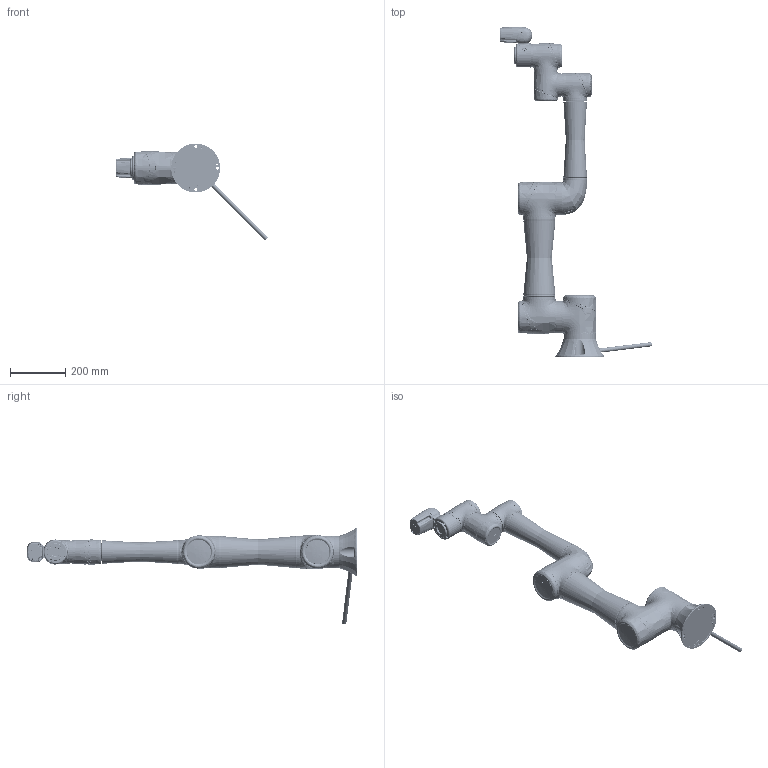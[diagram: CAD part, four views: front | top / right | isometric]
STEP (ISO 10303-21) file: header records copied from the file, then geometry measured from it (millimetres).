
FILE_DESCRIPTION((''),'2;1');
FILE_NAME('TM5-900_ASM','2017-01-06T',('Xavier.Kuo'),(''),'PRO/ENGINEER BY PARAMETRIC TECHNOLOGY CORPORATION, 2014320','PRO/ENGINEER BY PARAMETRIC TECHNOLOGY CORPORATION, 2014320','');
FILE_SCHEMA(('CONFIG_CONTROL_DESIGN'));
Products named in the file (11): TM5-BASE; 4H-J; ARM1-900; 04-JOINT-L; ARM2-900; 1H-J; IO_FX_SW0004; IO_CAMERA_F; 8A_05PFFS_SH7001_5; ASM0017_ASM; TM5-900_ASM
Assembly tree (14 placements, depth 3):
  TM5-900_ASM
    TM5-BASE
    4H-J  x3
    ARM1-900
    04-JOINT-L
    ARM2-900
    1H-J  x3
    ASM0017_ASM
      IO_FX_SW0004
      IO_CAMERA_F
      8A_05PFFS_SH7001_5
Bounding box: 550.75 x 1196.6 x 350.55 mm (x, y, z)
Volume: 3677617.6 mm3; surface area: 1816204.6 mm2
Topology: 19 solids, 61 shells, 10841 faces, 28970 edges, 18295 vertices
Faces by surface type: cylinder 3029, plane 2458, bspline 2411, cone 2053, torus 618, extrusion 167, sphere 87, revolution 18
Entity records: 279147 total; most frequent: CARTESIAN_POINT 137560, ORIENTED_EDGE 31044, DIRECTION 28184, EDGE_CURVE 15522, AXIS2_PLACEMENT_3D 11250, VERTEX_POINT 9994, CIRCLE 6569, EDGE_LOOP 6434
